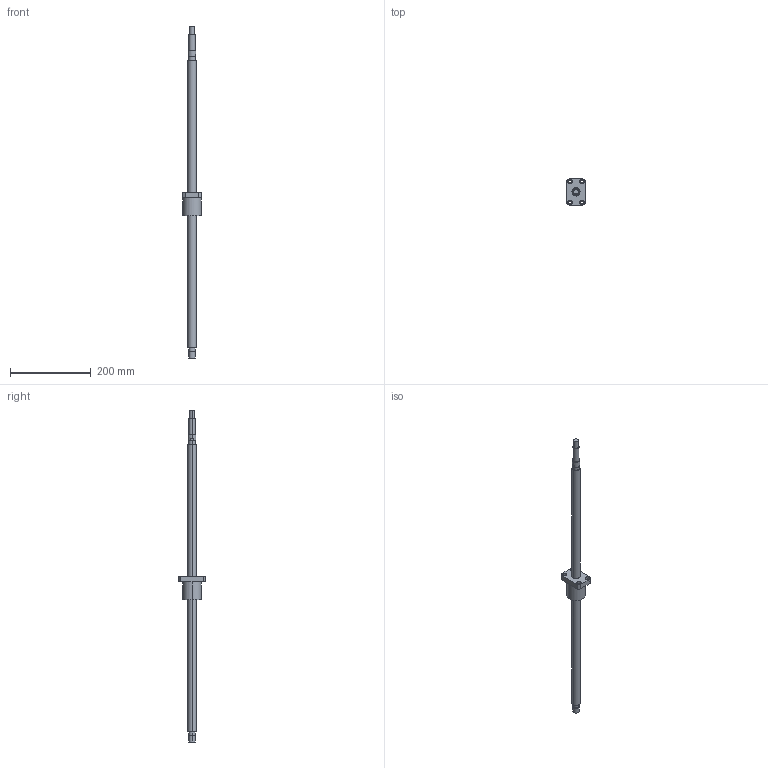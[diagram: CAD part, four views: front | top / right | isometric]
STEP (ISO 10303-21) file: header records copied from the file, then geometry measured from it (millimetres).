
FILE_DESCRIPTION((''),'2;1');
FILE_NAME('R20-20K2-FSC-710-820','2008-04-03T',('wcwu'),(''),'PRO/ENGINEER BY PARAMETRIC TECHNOLOGY CORPORATION, 2005070','PRO/ENGINEER BY PARAMETRIC TECHNOLOGY CORPORATION, 2005070','');
FILE_SCHEMA(('CONFIG_CONTROL_DESIGN'));
Length unit declared in the file: millimetre
Products named in the file (1): R20-20K2-FSC-710-820
Bounding box: 46 x 66 x 820 mm (x, y, z)
Volume: 334038.4 mm3; surface area: 62744.7 mm2
Topology: 1 solids, 1 shells, 65 faces, 146 edges, 96 vertices
Faces by surface type: cylinder 40, plane 25
Entity records: 1906 total; most frequent: DIRECTION 360, CARTESIAN_POINT 307, ORIENTED_EDGE 292, AXIS2_PLACEMENT_3D 149, EDGE_CURVE 146, VERTEX_POINT 96, EDGE_LOOP 86, CIRCLE 84
